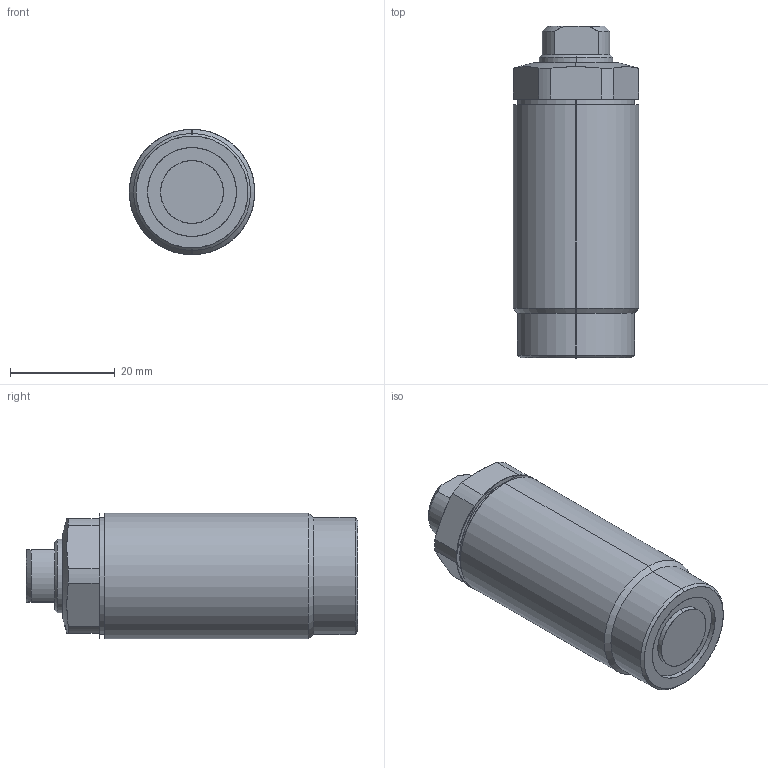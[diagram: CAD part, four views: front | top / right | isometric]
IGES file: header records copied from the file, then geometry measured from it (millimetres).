
Start section: SolidWorks IGES file using analytic representation for surfaces
Global section: file name: D:\karuppas\Clasp\3D model\Thread body cylinder\T03C-M242- L threaded pusher\T03C-M242-L threaded pusher.IGS; native system: SolidWorks 2017; preprocessor: SolidWorks 2017; author: pc; date: 220709.230708; units: millimetre
Bounding box: 24 x 63.5 x 24 mm (x, y, z)
Surface area: 7571.8 mm2 (no closed solid volume)
Topology: 0 solids, 0 shells, 243 faces, 2659 edges, 2657 vertices
Faces by surface type: bspline 210, revolution 33
